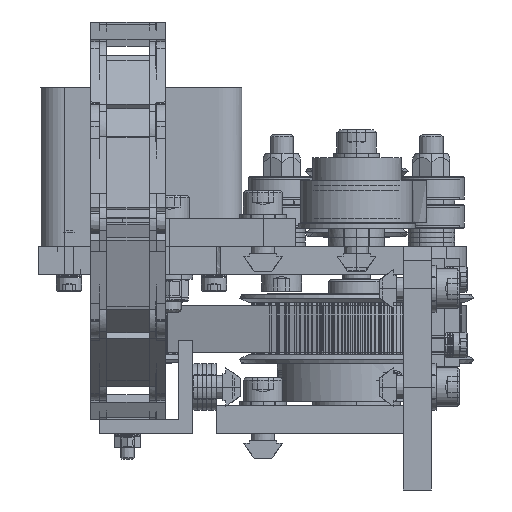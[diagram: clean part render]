
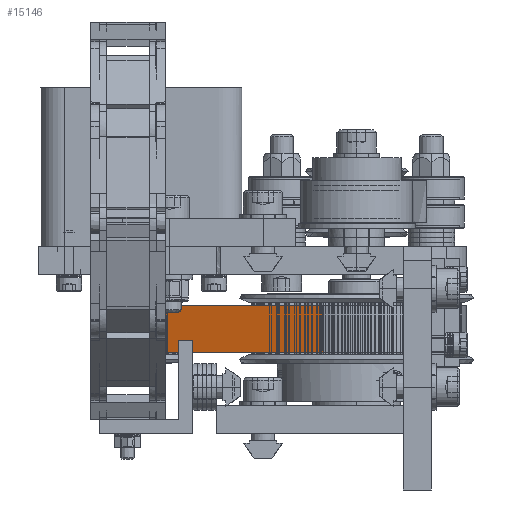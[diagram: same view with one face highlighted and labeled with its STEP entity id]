
A CAD part, left-side view. The second image highlights one B-rep face of the part: STEP entity #15146.
In plain terms, the highlighted planar face has unit normal (-0.95, 0.313, 0).
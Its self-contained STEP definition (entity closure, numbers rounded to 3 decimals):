
#15146=ADVANCED_FACE('',(#17226),#81736,.T.);
#17226=FACE_OUTER_BOUND('',#19340,.T.);
#19340=EDGE_LOOP('',(#22150,#22151,#22152,#22153));
#22150=ORIENTED_EDGE('',*,*,#58413,.T.);
#22151=ORIENTED_EDGE('',*,*,#58414,.T.);
#22152=ORIENTED_EDGE('',*,*,#58415,.T.);
#22153=ORIENTED_EDGE('',*,*,#58416,.T.);
#34805=PCURVE('',#81736,#43413);
#34806=PCURVE('',#81736,#43414);
#34807=PCURVE('',#81736,#43415);
#34808=PCURVE('',#81736,#43416);
#43413=DEFINITIONAL_REPRESENTATION('',(#65445),#177193);
#43414=DEFINITIONAL_REPRESENTATION('',(#65447),#177193);
#43415=DEFINITIONAL_REPRESENTATION('',(#65449),#177193);
#43416=DEFINITIONAL_REPRESENTATION('',(#65451),#177193);
#51779=SURFACE_CURVE('',#65444,(#34805),.PCURVE_S1.);
#51780=SURFACE_CURVE('',#65446,(#34806),.PCURVE_S1.);
#51781=SURFACE_CURVE('',#65448,(#34807),.PCURVE_S1.);
#51782=SURFACE_CURVE('',#65450,(#34808),.PCURVE_S1.);
#58413=EDGE_CURVE('',#76143,#76144,#51779,.T.);
#58414=EDGE_CURVE('',#76144,#76145,#51780,.T.);
#58415=EDGE_CURVE('',#76145,#76146,#51781,.T.);
#58416=EDGE_CURVE('',#76146,#76143,#51782,.T.);
#65444=B_SPLINE_CURVE_WITH_KNOTS('',1,(#92034,#92035),.UNSPECIFIED.,.F.,
 .F.,(2,2),(0.,1.),.UNSPECIFIED.);
#65445=B_SPLINE_CURVE_WITH_KNOTS('',1,(#92036,#92037),.UNSPECIFIED.,.F.,
 .F.,(2,2),(0.,1.),.UNSPECIFIED.);
#65446=B_SPLINE_CURVE_WITH_KNOTS('',1,(#92038,#92039),.UNSPECIFIED.,.F.,
 .F.,(2,2),(0.,1.),.UNSPECIFIED.);
#65447=B_SPLINE_CURVE_WITH_KNOTS('',1,(#92040,#92041),.UNSPECIFIED.,.F.,
 .F.,(2,2),(0.,1.),.UNSPECIFIED.);
#65448=B_SPLINE_CURVE_WITH_KNOTS('',1,(#92042,#92043),.UNSPECIFIED.,.F.,
 .F.,(2,2),(-1.,0.),.UNSPECIFIED.);
#65449=B_SPLINE_CURVE_WITH_KNOTS('',1,(#92044,#92045),.UNSPECIFIED.,.F.,
 .F.,(2,2),(-1.,0.),.UNSPECIFIED.);
#65450=B_SPLINE_CURVE_WITH_KNOTS('',1,(#92046,#92047),.UNSPECIFIED.,.F.,
 .F.,(2,2),(-1.,0.),.UNSPECIFIED.);
#65451=B_SPLINE_CURVE_WITH_KNOTS('',1,(#92048,#92049),.UNSPECIFIED.,.F.,
 .F.,(2,2),(-1.,0.),.UNSPECIFIED.);
#76143=VERTEX_POINT('',#92030);
#76144=VERTEX_POINT('',#92031);
#76145=VERTEX_POINT('',#92032);
#76146=VERTEX_POINT('',#92033);
#81736=PLANE('',#84227);
#84227=AXIS2_PLACEMENT_3D('',#92029,#84990,$);
#84990=DIRECTION('',(-0.95,0.313,0.));
#92029=CARTESIAN_POINT('',(686.835,52.245,11.5));
#92030=CARTESIAN_POINT('',(686.835,52.245,11.5));
#92031=CARTESIAN_POINT('',(700.44,93.521,11.5));
#92032=CARTESIAN_POINT('',(700.44,93.521,1.5));
#92033=CARTESIAN_POINT('',(686.835,52.245,1.5));
#92034=CARTESIAN_POINT('',(686.835,52.245,11.5));
#92035=CARTESIAN_POINT('',(700.44,93.521,11.5));
#92036=CARTESIAN_POINT('',(0.,0.));
#92037=CARTESIAN_POINT('',(1.,0.));
#92038=CARTESIAN_POINT('',(700.44,93.521,11.5));
#92039=CARTESIAN_POINT('',(700.44,93.521,1.5));
#92040=CARTESIAN_POINT('',(1.,0.));
#92041=CARTESIAN_POINT('',(1.,1.));
#92042=CARTESIAN_POINT('',(700.44,93.521,1.5));
#92043=CARTESIAN_POINT('',(686.835,52.245,1.5));
#92044=CARTESIAN_POINT('',(1.,1.));
#92045=CARTESIAN_POINT('',(0.,1.));
#92046=CARTESIAN_POINT('',(686.835,52.245,1.5));
#92047=CARTESIAN_POINT('',(686.835,52.245,11.5));
#92048=CARTESIAN_POINT('',(0.,1.));
#92049=CARTESIAN_POINT('',(0.,0.));
#177193=(
GEOMETRIC_REPRESENTATION_CONTEXT(2)
PARAMETRIC_REPRESENTATION_CONTEXT()
REPRESENTATION_CONTEXT('pspace','')
);
